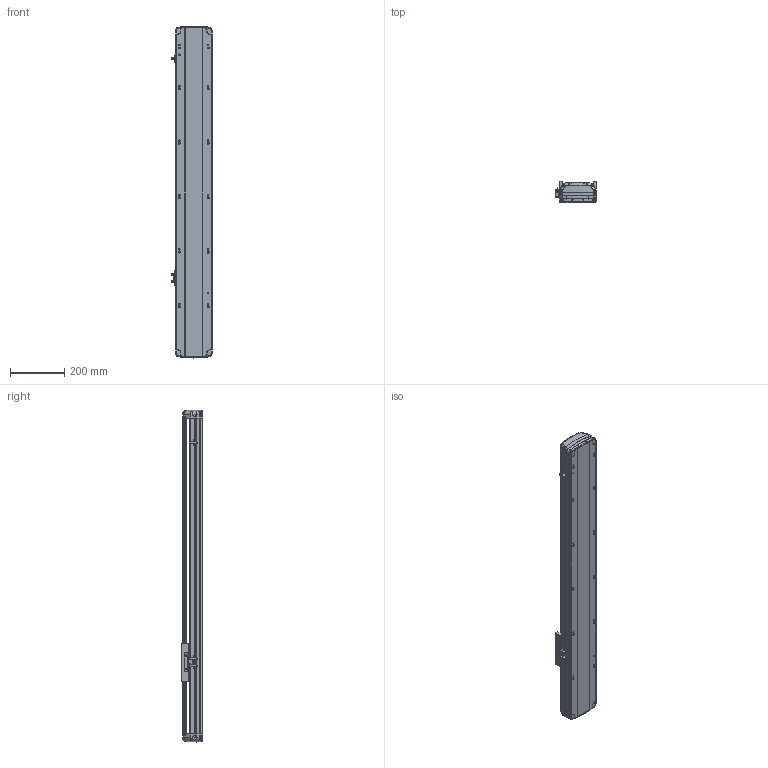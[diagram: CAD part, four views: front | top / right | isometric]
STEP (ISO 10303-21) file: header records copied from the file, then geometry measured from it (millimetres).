
FILE_DESCRIPTION (( 'STEP AP214' ), '1' );
FILE_NAME ('RTH14-XX-800-B-M20B-C4.STEP', '2025-10-24T08:39:40', ( 'Microsoft' ), ( 'Microsoft' ), 'SwSTEP 2.0', 'SolidWorks 2018', '' );
FILE_SCHEMA (( 'AUTOMOTIVE_DESIGN' ));
Length unit declared in the file: millimetre
Products named in the file (7): N_RTH14-B-011PB菁釱^RTH14-XX-XX-B-M20B-C4; RTH14-XX-800-B-M20B-C4; N_OMRON EE-SX672 传感器^RTH14-XX-XX-B-M20B-C4; N_RTH13-L-012感应片（外置）^RTH14-XX-XX-B-M20B-C4; N_RTH14-R-004-SFSR16賑釱^RTH14-XX-XX-B-M20B-C4; N_RTH14-B-007B奻裔^RTH14-XX-XX-B-M20B-C4; N_RTH14-GY-001P^RTH14-XX-XX-B-M20B-C4
Assembly tree (9 placements, depth 2):
  RTH14-XX-800-B-M20B-C4
    N_RTH14-B-011PB菁釱^RTH14-XX-XX-B-M20B-C4
    N_RTH14-B-007B奻裔^RTH14-XX-XX-B-M20B-C4
    N_RTH13-L-012感应片（外置）^RTH14-XX-XX-B-M20B-C4
    N_OMRON EE-SX672 传感器^RTH14-XX-XX-B-M20B-C4  x3
    N_RTH14-R-004-SFSR16賑釱^RTH14-XX-XX-B-M20B-C4
    N_RTH14-GY-001P^RTH14-XX-XX-B-M20B-C4  x2
Bounding box: 148.5 x 78.03 x 1218.99 mm (x, y, z)
Volume: 4953079.1 mm3; surface area: 1138477.2 mm2
Topology: 9 solids, 9 shells, 1936 faces, 5458 edges, 3554 vertices
Faces by surface type: plane 983, bspline 450, cylinder 439, cone 56, torus 8
Entity records: 47302 total; most frequent: CARTESIAN_POINT 21030, ORIENTED_EDGE 5932, DIRECTION 4389, EDGE_CURVE 2966, VERTEX_POINT 1940, LINE 1661, VECTOR 1661, AXIS2_PLACEMENT_3D 1364
